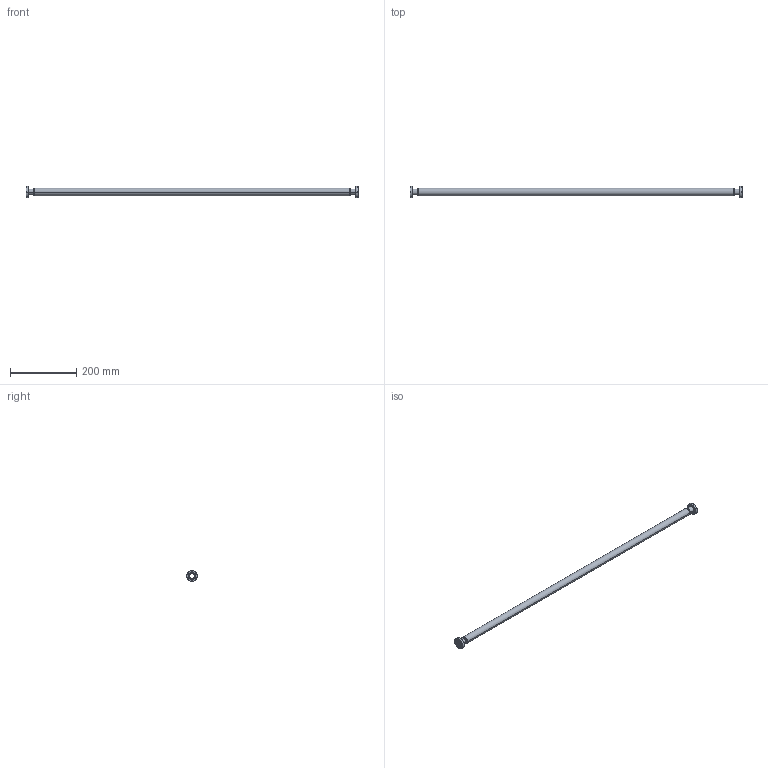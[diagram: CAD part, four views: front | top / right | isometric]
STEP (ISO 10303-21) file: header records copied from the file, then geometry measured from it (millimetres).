
FILE_DESCRIPTION((''),'2;1');
FILE_NAME('N:\Transfer\Berger Martin\Leybold\C15\88573.stp','2005-02-07T09:52:01',('VCRC_L'),(''),'Autodesk Inventor 9','Autodesk Inventor 9','');
FILE_SCHEMA(('AUTOMOTIVE_DESIGN { 1 0 10303 214 1 1 1 1 }'));
Length unit declared in the file: millimetre
Products named in the file (1): 88573
Bounding box: 1000 x 34 x 34 mm (x, y, z)
Volume: 23962.7 mm3; surface area: 146474.4 mm2
Topology: 1 solids, 1 shells, 221 faces, 521 edges, 325 vertices
Faces by surface type: cone 74, bspline 60, torus 32, cylinder 30, plane 25
Entity records: 8339 total; most frequent: CARTESIAN_POINT 3060, DIRECTION 1238, ORIENTED_EDGE 1042, AXIS2_PLACEMENT_3D 555, EDGE_CURVE 521, CIRCLE 393, VERTEX_POINT 325, EDGE_LOOP 270
